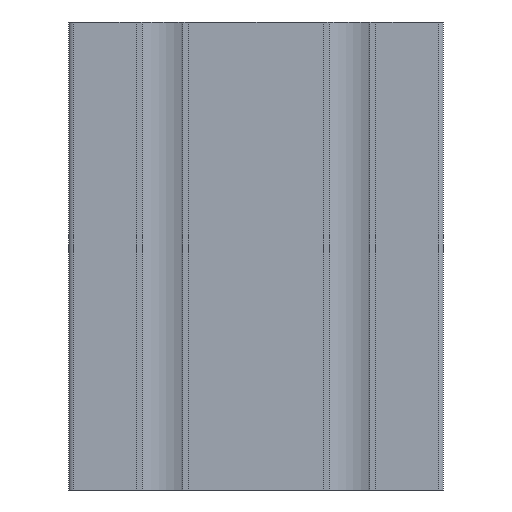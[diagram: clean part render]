
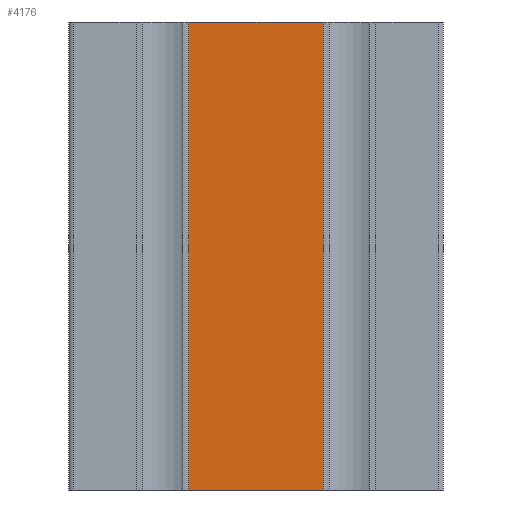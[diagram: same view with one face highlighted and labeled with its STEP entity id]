
A CAD part, front view. The second image highlights one B-rep face of the part: STEP entity #4176.
In plain terms, the highlighted planar face has unit normal (0, -1, 0).
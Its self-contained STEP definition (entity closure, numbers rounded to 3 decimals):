
#374=FACE_OUTER_BOUND('',#580,.T.);
#580=EDGE_LOOP('',(#3295,#3296,#3297,#3298));
#1018=LINE('',#6674,#1510);
#1019=LINE('',#6677,#1511);
#1020=LINE('',#6679,#1512);
#1021=LINE('',#6680,#1513);
#1510=VECTOR('',#5474,100.);
#1511=VECTOR('',#5477,28.8);
#1512=VECTOR('',#5478,28.8);
#1513=VECTOR('',#5479,100.);
#1949=VERTEX_POINT('',#6670);
#1950=VERTEX_POINT('',#6672);
#1951=VERTEX_POINT('',#6676);
#1952=VERTEX_POINT('',#6678);
#2520=EDGE_CURVE('',#1949,#1950,#1018,.T.);
#2521=EDGE_CURVE('',#1949,#1951,#1019,.T.);
#2522=EDGE_CURVE('',#1952,#1950,#1020,.T.);
#2523=EDGE_CURVE('',#1951,#1952,#1021,.T.);
#3295=ORIENTED_EDGE('',*,*,#2521,.F.);
#3296=ORIENTED_EDGE('',*,*,#2520,.T.);
#3297=ORIENTED_EDGE('',*,*,#2522,.F.);
#3298=ORIENTED_EDGE('',*,*,#2523,.F.);
#3975=PLANE('',#4494);
#4176=ADVANCED_FACE('',(#374),#3975,.T.);
#4494=AXIS2_PLACEMENT_3D('',#6675,#5475,#5476);
#5474=DIRECTION('',(0.,0.,1.));
#5475=DIRECTION('center_axis',(0.,-1.,0.));
#5476=DIRECTION('ref_axis',(1.,0.,0.));
#5477=DIRECTION('',(-1.,0.,0.));
#5478=DIRECTION('',(1.,0.,0.));
#5479=DIRECTION('',(0.,0.,1.));
#6670=CARTESIAN_POINT('',(54.46,-0.06,0.));
#6672=CARTESIAN_POINT('',(54.46,-0.06,100.));
#6674=CARTESIAN_POINT('',(54.46,-0.06,0.));
#6675=CARTESIAN_POINT('Origin',(25.66,-0.06,0.));
#6676=CARTESIAN_POINT('',(25.66,-0.06,0.));
#6677=CARTESIAN_POINT('',(54.46,-0.06,0.));
#6678=CARTESIAN_POINT('',(25.66,-0.06,100.));
#6679=CARTESIAN_POINT('',(54.46,-0.06,100.));
#6680=CARTESIAN_POINT('',(25.66,-0.06,0.));
